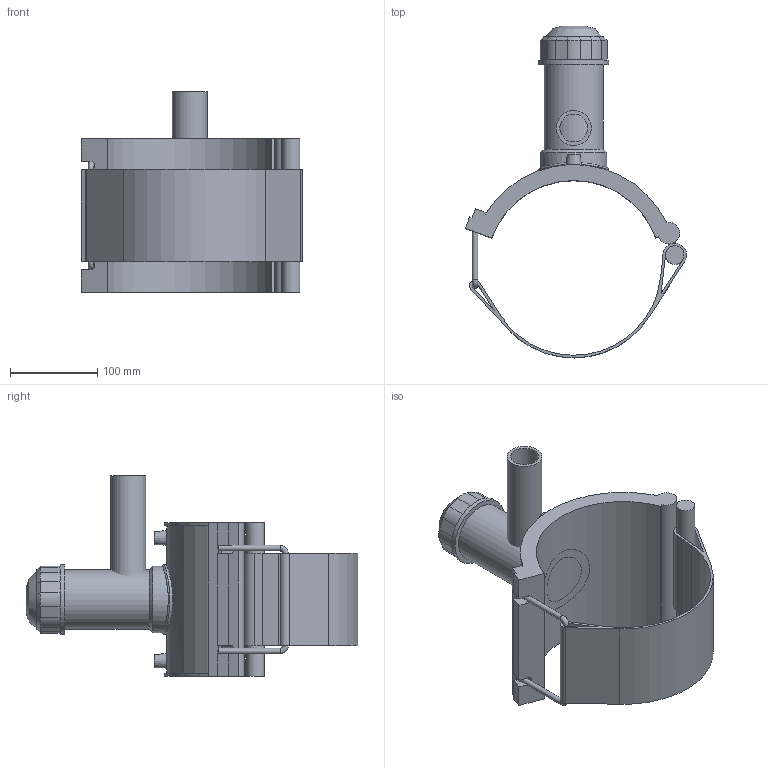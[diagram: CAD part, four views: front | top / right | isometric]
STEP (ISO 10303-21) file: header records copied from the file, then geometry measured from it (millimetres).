
FILE_DESCRIPTION(/* description */ (''),/* implementation_level */ '2;1');
FILE_NAME(/* name */ 'C:\Dropbox\KIMPROJECTS-Inventor 2019\99-16-3568-Processing\ElectroFusion Fittings\4963P4\stp\4963P4200040.stp',/* time_stamp */ '2022-03-17T11:31:47+02:00',/* author */ ('KIM'),/* organization */ (''),/* preprocessor_version */ 'ST-DEVELOPER v17.2',/* originating_system */ 'Autodesk Inventor 2019',/* authorisation */ '');
FILE_SCHEMA (('AUTOMOTIVE_DESIGN { 1 0 10303 214 3 1 1 }'));
Length unit declared in the file: millimetre
Products named in the file (1): 4963P4200040
Bounding box: 253.17 x 380 x 230 mm (x, y, z)
Volume: 1549966.5 mm3; surface area: 344481.7 mm2
Topology: 3 solids, 3 shells, 122 faces, 309 edges, 201 vertices
Faces by surface type: plane 69, cylinder 38, cone 11, torus 2, bspline 2
Full cylindrical faces by diameter (mm): 4 x2, 6.4 x2, 10 x2, 21.077 x1, 32 x1, 40 x1, 56 x1, 68 x1, 76 x1, 80 x2
Entity records: 4173 total; most frequent: CARTESIAN_POINT 1087, DIRECTION 653, ORIENTED_EDGE 620, EDGE_CURVE 310, AXIS2_PLACEMENT_3D 237, VERTEX_POINT 201, LINE 179, VECTOR 179
